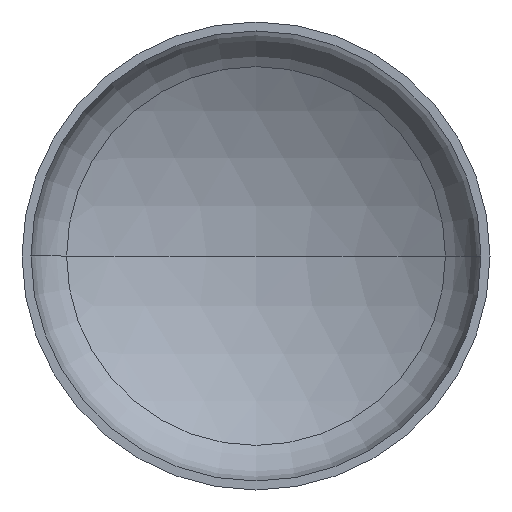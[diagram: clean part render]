
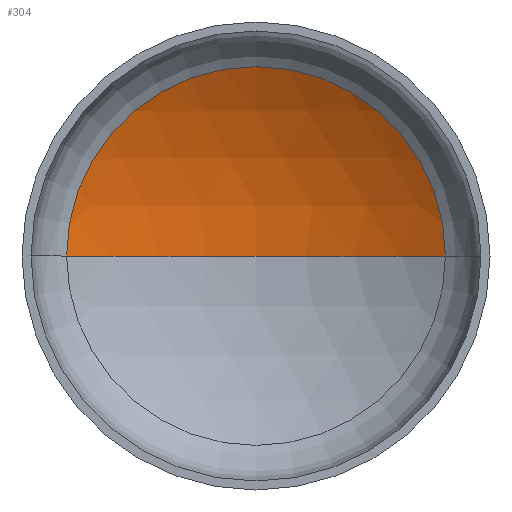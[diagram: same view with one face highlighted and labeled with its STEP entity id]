
A CAD part, front view. The second image highlights one B-rep face of the part: STEP entity #304.
In plain terms, the highlighted spherical face has radius 2080 mm.
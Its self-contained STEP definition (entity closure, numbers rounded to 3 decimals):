
#2 = CARTESIAN_POINT ( 'NONE',  ( 0., -1299.103, 0. ) ) ;
#5 = EDGE_LOOP ( 'NONE', ( #141, #126, #73 ) ) ;
#15 = CARTESIAN_POINT ( 'NONE',  ( 0., -1299.103, 0. ) ) ;
#25 = AXIS2_PLACEMENT_3D ( 'NONE', #183, #53, #154 ) ;
#31 = VERTEX_POINT ( 'NONE', #369 ) ;
#42 = VERTEX_POINT ( 'NONE', #270 ) ;
#46 = AXIS2_PLACEMENT_3D ( 'NONE', #15, #289, #253 ) ;
#50 = AXIS2_PLACEMENT_3D ( 'NONE', #2, #165, #179 ) ;
#52 = AXIS2_PLACEMENT_3D ( 'NONE', #201, #203, #273 ) ;
#53 = DIRECTION ( 'NONE',  ( 0., 0., -1. ) ) ;
#73 = ORIENTED_EDGE ( 'NONE', *, *, #119, .T. ) ;
#108 = VERTEX_POINT ( 'NONE', #317 ) ;
#119 = EDGE_CURVE ( 'NONE', #31, #42, #365, .T. ) ;
#122 = EDGE_CURVE ( 'NONE', #108, #31, #292, .T. ) ;
#125 = EDGE_CURVE ( 'NONE', #108, #42, #301, .T. ) ;
#126 = ORIENTED_EDGE ( 'NONE', *, *, #122, .T. ) ;
#141 = ORIENTED_EDGE ( 'NONE', *, *, #125, .F. ) ;
#154 = DIRECTION ( 'NONE',  ( -1., 0., 0. ) ) ;
#157 = FACE_OUTER_BOUND ( 'NONE', #5, .T. ) ;
#165 = DIRECTION ( 'NONE',  ( 0., 0., -1. ) ) ;
#179 = DIRECTION ( 'NONE',  ( -1., 0., 0. ) ) ;
#183 = CARTESIAN_POINT ( 'NONE',  ( 0., -1299.103, 0. ) ) ;
#201 = CARTESIAN_POINT ( 'NONE',  ( 0., 495.025, 0. ) ) ;
#203 = DIRECTION ( 'NONE',  ( 0., -1., 0. ) ) ;
#253 = DIRECTION ( 'NONE',  ( 1., 0., 0. ) ) ;
#270 = CARTESIAN_POINT ( 'NONE',  ( -1052.381, 495.025, 0. ) ) ;
#273 = DIRECTION ( 'NONE',  ( 1., 0., 0. ) ) ;
#289 = DIRECTION ( 'NONE',  ( 0., 0., 1. ) ) ;
#292 = CIRCLE ( 'NONE', #50, 2080. ) ;
#301 = CIRCLE ( 'NONE', #46, 2080. ) ;
#304 = ADVANCED_FACE ( 'NONE', ( #157 ), #409, .F. ) ;
#317 = CARTESIAN_POINT ( 'NONE',  ( 0., 780.897, 0. ) ) ;
#365 = CIRCLE ( 'NONE', #52, 1052.381 ) ;
#369 = CARTESIAN_POINT ( 'NONE',  ( 1052.381, 495.025, 0. ) ) ;
#409 = SPHERICAL_SURFACE ( 'NONE', #25, 2080. ) ;
